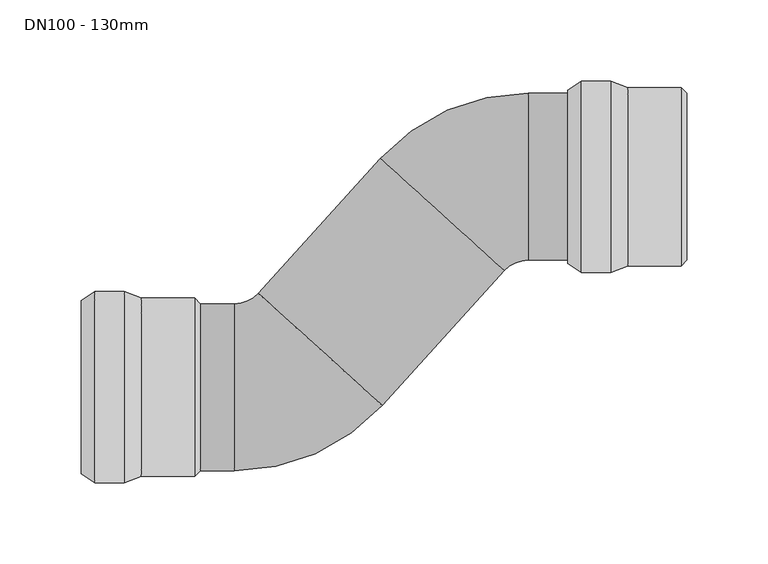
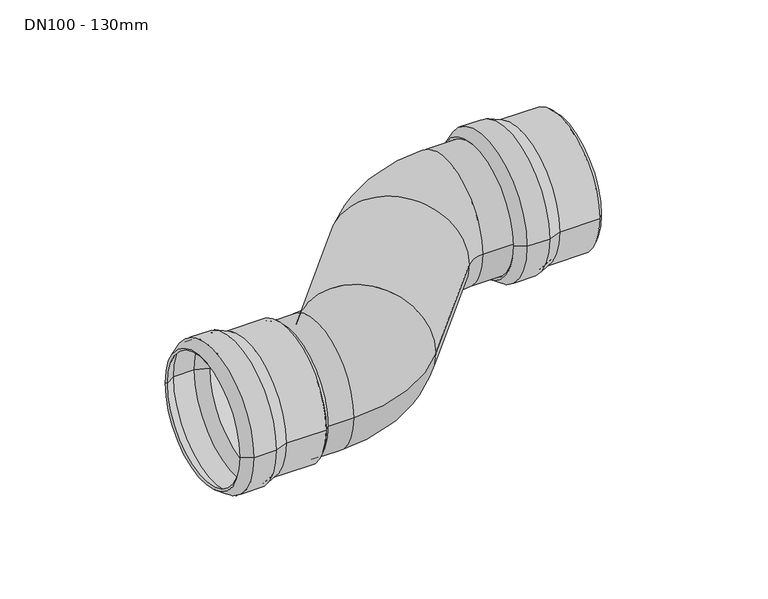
"""IFC4 building model written with IfcOpenShell, lengths in millimetres: valve geometry, PIA_ST_UN_GM-X s-bend_ACO : DN100 - 130mm."""

from ifc_helpers import new_model, si_unit, point, frame, origin, place, context, project, spatial, polyline, circle_curve, ellipse_curve, trimmed, source, transform, mapped, element, save
from ifc_brep_helpers import plane_surface, cylinder_surface, revolved_surface, advanced_brep


def dn100_130mm_dbbf00aa(model_context):
    return source(origin(), model_context, "Body", "AdvancedBrep", [
        advanced_brep(
        [(106.5, 189.0, 0.0), (106.5, 71.0, 0.0), (88.3, 71.0, 0.0), (88.3, 189.0, 0.0), (117.0, 185.0, 0.0), (117.0, 75.0, 0.0), (80.0, 76.5, 0.0), (80.0, 183.5, 0.0), (150.0, 185.0, 0.0), (150.0, 75.0, 0.0), (153.5, 181.5, 0.0), (153.5, 78.5, 0.0), (150.0, 181.5, 0.0), (150.0, 78.5, 0.0), (116.6319487, 183.0, 0.0), (116.6319487, 77.0, 0.0), (150.0, 77.0, 0.0), (150.0, 183.0, 0.0), (106.1319487, 187.0, 0.0), (106.1319487, 73.0, 0.0), (88.9025117, 187.0, 0.0), (88.9025117, 73.0, 0.0), (81.1047607, 181.8328156, 0.0), (81.1047607, 78.1671844, 0.0)],
        [
            (0, 1, circle_curve(frame((106.5, 130.0, 0.0), z_axis=(-1.0, 0.0, 0.0), x_axis=(0.0, -1.0, 0.0)), 59.0)),
            (1, 2),
            (2, 3, circle_curve(frame((88.3, 130.0, 0.0), z_axis=(1.0, 0.0, 0.0), x_axis=(0.0, -1.0, 0.0)), 59.0)),
            (3, 0),
            (1, 0, circle_curve(frame((106.5, 130.0, 0.0), z_axis=(-1.0, 0.0, 0.0), x_axis=(0.0, -1.0, 0.0)), 59.0)),
            (3, 2, circle_curve(frame((88.3, 130.0, 0.0), z_axis=(1.0, 0.0, 0.0), x_axis=(0.0, -1.0, 0.0)), 59.0)),
            (4, 5, circle_curve(frame((117.0, 130.0, 0.0), z_axis=(-1.0, 0.0, 0.0), x_axis=(0.0, -1.0, 0.0)), 55.0)),
            (5, 1),
            (0, 4),
            (5, 4, circle_curve(frame((117.0, 130.0, 0.0), z_axis=(-1.0, 0.0, 0.0), x_axis=(0.0, -1.0, 0.0)), 55.0)),
            (2, 6),
            (6, 7, circle_curve(frame((80.0, 130.0, 0.0), z_axis=(1.0, 0.0, 0.0), x_axis=(0.0, -1.0, 0.0)), 53.5)),
            (7, 3),
            (7, 6, circle_curve(frame((80.0, 130.0, 0.0), z_axis=(1.0, 0.0, 0.0), x_axis=(0.0, -1.0, 0.0)), 53.5)),
            (8, 9, circle_curve(frame((150.0, 130.0, 0.0), z_axis=(-1.0, 0.0, 0.0), x_axis=(0.0, -1.0, 0.0)), 55.0)),
            (9, 5),
            (4, 8),
            (9, 8, circle_curve(frame((150.0, 130.0, 0.0), z_axis=(-1.0, 0.0, 0.0), x_axis=(0.0, -1.0, 0.0)), 55.0)),
            (10, 11, circle_curve(frame((153.5, 130.0, 0.0), z_axis=(-1.0, 0.0, 0.0), x_axis=(0.0, -1.0, 0.0)), 51.5)),
            (11, 9),
            (8, 10),
            (11, 10, circle_curve(frame((153.5, 130.0, 0.0), z_axis=(-1.0, 0.0, 0.0), x_axis=(0.0, -1.0, 0.0)), 51.5)),
            (12, 13, circle_curve(frame((150.0, 130.0, 0.0), z_axis=(-1.0, 0.0, 0.0), x_axis=(0.0, -1.0, 0.0)), 51.5)),
            (13, 11),
            (10, 12),
            (13, 12, circle_curve(frame((150.0, 130.0, 0.0), z_axis=(-1.0, 0.0, 0.0), x_axis=(0.0, -1.0, 0.0)), 51.5)),
            (14, 15, circle_curve(frame((116.6319487, 130.0, 0.0), z_axis=(-1.0, 0.0, 0.0), x_axis=(0.0, -1.0, 0.0)), 53.0)),
            (15, 16),
            (16, 17, circle_curve(frame((150.0, 130.0, 0.0), z_axis=(1.0, 0.0, 0.0), x_axis=(0.0, -1.0, 0.0)), 53.0)),
            (17, 14),
            (15, 14, circle_curve(frame((116.6319487, 130.0, 0.0), z_axis=(-1.0, 0.0, 0.0), x_axis=(0.0, -1.0, 0.0)), 53.0)),
            (17, 16, circle_curve(frame((150.0, 130.0, 0.0), z_axis=(1.0, 0.0, 0.0), x_axis=(0.0, -1.0, 0.0)), 53.0)),
            (18, 19, circle_curve(frame((106.1319487, 130.0, 0.0), z_axis=(-1.0, 0.0, 0.0), x_axis=(0.0, -1.0, 0.0)), 57.0)),
            (19, 15),
            (14, 18),
            (19, 18, circle_curve(frame((106.1319487, 130.0, 0.0), z_axis=(-1.0, 0.0, 0.0), x_axis=(0.0, -1.0, 0.0)), 57.0)),
            (20, 21, circle_curve(frame((88.9025117, 130.0, 0.0), z_axis=(-1.0, 0.0, 0.0), x_axis=(0.0, -1.0, 0.0)), 57.0)),
            (21, 19),
            (18, 20),
            (21, 20, circle_curve(frame((88.9025117, 130.0, 0.0), z_axis=(-1.0, 0.0, 0.0), x_axis=(0.0, -1.0, 0.0)), 57.0)),
            (22, 23, circle_curve(frame((81.1047607, 130.0, 0.0), z_axis=(-1.0, 0.0, 0.0), x_axis=(0.0, -1.0, 0.0)), 51.8328156)),
            (23, 21),
            (20, 22),
            (23, 22, circle_curve(frame((81.1047607, 130.0, 0.0), z_axis=(-1.0, 0.0, 0.0), x_axis=(0.0, -1.0, 0.0)), 51.8328156)),
            (6, 23),
            (22, 7),
            (16, 13),
            (12, 17),
        ],
        [
            cylinder_surface(frame((83.3555883, 130.0, 0.0), z_axis=(1.0, 0.0, 0.0), x_axis=(0.0, -1.0, 0.0)), 59.0),
            revolved_surface(polyline([(106.5, 71.0, 0.0), (117.0, 75.0, 0.0)]), (83.3555883, 130.0, 0.0), (1.0, 0.0, 0.0)),
            revolved_surface(polyline([(80.0, 76.5, 0.0), (88.3, 71.0, 0.0)]), (83.3555883, 130.0, 0.0), (1.0, 0.0, 0.0)),
            cylinder_surface(frame((83.3555883, 130.0, 0.0), z_axis=(1.0, 0.0, 0.0), x_axis=(0.0, -1.0, 0.0)), 55.0),
            revolved_surface(polyline([(150.0, 75.0, 0.0), (153.5, 78.5, 0.0)]), (83.3555883, 130.0, 0.0), (1.0, 0.0, 0.0)),
            revolved_surface(polyline([(153.5, 78.5, 0.0), (150.0, 78.5, 0.0)]), (83.3555883, 130.0, 0.0), (1.0, 0.0, 0.0)),
            revolved_surface(polyline([(150.0, 77.0, 0.0), (116.6319487, 77.0, 0.0)]), (83.3555883, 130.0, 0.0), (1.0, 0.0, 0.0)),
            revolved_surface(polyline([(116.6319487, 77.0, 0.0), (106.1319487, 73.0, 0.0)]), (83.3555883, 130.0, 0.0), (1.0, 0.0, 0.0)),
            revolved_surface(polyline([(106.1319487, 73.0, 0.0), (88.9025117, 73.0, 0.0)]), (83.3555883, 130.0, 0.0), (1.0, 0.0, 0.0)),
            revolved_surface(polyline([(88.9025117, 73.0, 0.0), (81.1047607, 78.1671844, 0.0)]), (83.3555883, 130.0, 0.0), (1.0, 0.0, 0.0)),
            revolved_surface(polyline([(81.1047607, 78.1671844, 0.0), (80.0, 76.5, 0.0)]), (83.3555883, 130.0, 0.0), (1.0, 0.0, 0.0)),
            plane_surface(frame((150.0, 130.0, 0.0), z_axis=(-1.0, 0.0, 0.0), x_axis=(0.0, -1.0, 0.0))),
        ],
        [
            (0, [[1, 2, 3, 4]]),
            (0, [[5, -4, 6, -2]]),
            (1, [[7, 8, -1, 9]]),
            (1, [[10, -9, -5, -8]]),
            (2, [[-3, 11, 12, 13]]),
            (2, [[-6, -13, 14, -11]]),
            (3, [[15, 16, -7, 17]]),
            (3, [[18, -17, -10, -16]]),
            (4, [[19, 20, -15, 21]]),
            (4, [[22, -21, -18, -20]]),
            (5, [[23, 24, -19, 25]]),
            (5, [[26, -25, -22, -24]]),
            (6, [[27, 28, 29, 30]]),
            (6, [[31, -30, 32, -28]]),
            (7, [[33, 34, -27, 35]]),
            (7, [[36, -35, -31, -34]]),
            (8, [[37, 38, -33, 39]]),
            (8, [[40, -39, -36, -38]]),
            (9, [[41, 42, -37, 43]]),
            (9, [[44, -43, -40, -42]]),
            (10, [[-12, 45, -41, 46]]),
            (10, [[-14, -46, -44, -45]]),
            (11, [[-29, 47, -23, 48]]),
            (11, [[-32, -48, -26, -47]]),
        ],
    ),
        advanced_brep(
        [(-193.5, 59.0, 0.0), (-193.5, -59.0, 0.0), (-211.7, -59.0, 0.0), (-211.7, 59.0, 0.0), (-183.0, 55.0, 0.0), (-183.0, -55.0, 0.0), (-220.0, -53.5, 0.0), (-220.0, 53.5, 0.0), (-150.0, 55.0, 0.0), (-150.0, -55.0, 0.0), (-146.5, 51.5, 0.0), (-146.5, -51.5, 0.0), (-150.0, 51.5, 0.0), (-150.0, -51.5, 0.0), (-183.3680513, 53.0, 0.0), (-183.3680513, -53.0, 0.0), (-150.0, -53.0, 0.0), (-150.0, 53.0, 0.0), (-193.8680513, 57.0, 0.0), (-193.8680513, -57.0, 0.0), (-211.0974883, 57.0, 0.0), (-211.0974883, -57.0, 0.0), (-218.8952393, 51.8328156, 0.0), (-218.8952393, -51.8328156, 0.0)],
        [
            (0, 1, circle_curve(frame((-193.5, 0.0, 0.0), z_axis=(-1.0, 0.0, 0.0), x_axis=(0.0, -1.0, 0.0)), 59.0)),
            (1, 2),
            (2, 3, circle_curve(frame((-211.7, 0.0, 0.0), z_axis=(1.0, 0.0, 0.0), x_axis=(0.0, -1.0, 0.0)), 59.0)),
            (3, 0),
            (1, 0, circle_curve(frame((-193.5, 0.0, 0.0), z_axis=(-1.0, 0.0, 0.0), x_axis=(0.0, -1.0, 0.0)), 59.0)),
            (3, 2, circle_curve(frame((-211.7, 0.0, 0.0), z_axis=(1.0, 0.0, 0.0), x_axis=(0.0, -1.0, 0.0)), 59.0)),
            (4, 5, circle_curve(frame((-183.0, 0.0, 0.0), z_axis=(-1.0, 0.0, 0.0), x_axis=(0.0, -1.0, 0.0)), 55.0)),
            (5, 1),
            (0, 4),
            (5, 4, circle_curve(frame((-183.0, 0.0, 0.0), z_axis=(-1.0, 0.0, 0.0), x_axis=(0.0, -1.0, 0.0)), 55.0)),
            (2, 6),
            (6, 7, circle_curve(frame((-220.0, 0.0, 0.0), z_axis=(1.0, 0.0, 0.0), x_axis=(0.0, -1.0, 0.0)), 53.5)),
            (7, 3),
            (7, 6, circle_curve(frame((-220.0, 0.0, 0.0), z_axis=(1.0, 0.0, 0.0), x_axis=(0.0, -1.0, 0.0)), 53.5)),
            (8, 9, circle_curve(frame((-150.0, 0.0, 0.0), z_axis=(-1.0, 0.0, 0.0), x_axis=(0.0, -1.0, 0.0)), 55.0)),
            (9, 5),
            (4, 8),
            (9, 8, circle_curve(frame((-150.0, 0.0, 0.0), z_axis=(-1.0, 0.0, 0.0), x_axis=(0.0, -1.0, 0.0)), 55.0)),
            (10, 11, circle_curve(frame((-146.5, 0.0, 0.0), z_axis=(-1.0, 0.0, 0.0), x_axis=(0.0, -1.0, 0.0)), 51.5)),
            (11, 9),
            (8, 10),
            (11, 10, circle_curve(frame((-146.5, 0.0, 0.0), z_axis=(-1.0, 0.0, 0.0), x_axis=(0.0, -1.0, 0.0)), 51.5)),
            (12, 13, circle_curve(frame((-150.0, 0.0, 0.0), z_axis=(-1.0, 0.0, 0.0), x_axis=(0.0, -1.0, 0.0)), 51.5)),
            (13, 11),
            (10, 12),
            (13, 12, circle_curve(frame((-150.0, 0.0, 0.0), z_axis=(-1.0, 0.0, 0.0), x_axis=(0.0, -1.0, 0.0)), 51.5)),
            (14, 15, circle_curve(frame((-183.3680513, 0.0, 0.0), z_axis=(-1.0, 0.0, 0.0), x_axis=(0.0, -1.0, 0.0)), 53.0)),
            (15, 16),
            (16, 17, circle_curve(frame((-150.0, 0.0, 0.0), z_axis=(1.0, 0.0, 0.0), x_axis=(0.0, -1.0, 0.0)), 53.0)),
            (17, 14),
            (15, 14, circle_curve(frame((-183.3680513, 0.0, 0.0), z_axis=(-1.0, 0.0, 0.0), x_axis=(0.0, -1.0, 0.0)), 53.0)),
            (17, 16, circle_curve(frame((-150.0, 0.0, 0.0), z_axis=(1.0, 0.0, 0.0), x_axis=(0.0, -1.0, 0.0)), 53.0)),
            (18, 19, circle_curve(frame((-193.8680513, 0.0, 0.0), z_axis=(-1.0, 0.0, 0.0), x_axis=(0.0, -1.0, 0.0)), 57.0)),
            (19, 15),
            (14, 18),
            (19, 18, circle_curve(frame((-193.8680513, 0.0, 0.0), z_axis=(-1.0, 0.0, 0.0), x_axis=(0.0, -1.0, 0.0)), 57.0)),
            (20, 21, circle_curve(frame((-211.0974883, 0.0, 0.0), z_axis=(-1.0, 0.0, 0.0), x_axis=(0.0, -1.0, 0.0)), 57.0)),
            (21, 19),
            (18, 20),
            (21, 20, circle_curve(frame((-211.0974883, 0.0, 0.0), z_axis=(-1.0, 0.0, 0.0), x_axis=(0.0, -1.0, 0.0)), 57.0)),
            (22, 23, circle_curve(frame((-218.8952393, 0.0, 0.0), z_axis=(-1.0, 0.0, 0.0), x_axis=(0.0, -1.0, 0.0)), 51.8328156)),
            (23, 21),
            (20, 22),
            (23, 22, circle_curve(frame((-218.8952393, 0.0, 0.0), z_axis=(-1.0, 0.0, 0.0), x_axis=(0.0, -1.0, 0.0)), 51.8328156)),
            (6, 23),
            (22, 7),
            (16, 13),
            (12, 17),
        ],
        [
            cylinder_surface(frame((-216.6444117, 0.0, 0.0), z_axis=(1.0, 0.0, 0.0), x_axis=(0.0, -1.0, 0.0)), 59.0),
            revolved_surface(polyline([(-193.5, -59.0, 0.0), (-183.0, -55.0, 0.0)]), (-216.6444117, 0.0, 0.0), (1.0, 0.0, 0.0)),
            revolved_surface(polyline([(-220.0, -53.5, 0.0), (-211.7, -59.0, 0.0)]), (-216.6444117, 0.0, 0.0), (1.0, 0.0, 0.0)),
            cylinder_surface(frame((-216.6444117, 0.0, 0.0), z_axis=(1.0, 0.0, 0.0), x_axis=(0.0, -1.0, 0.0)), 55.0),
            revolved_surface(polyline([(-150.0, -55.0, 0.0), (-146.5, -51.5, 0.0)]), (-216.6444117, 0.0, 0.0), (1.0, 0.0, 0.0)),
            revolved_surface(polyline([(-146.5, -51.5, 0.0), (-150.0, -51.5, 0.0)]), (-216.6444117, 0.0, 0.0), (1.0, 0.0, 0.0)),
            revolved_surface(polyline([(-150.0, -53.0, 0.0), (-183.3680513, -53.0, 0.0)]), (-216.6444117, 0.0, 0.0), (1.0, 0.0, 0.0)),
            revolved_surface(polyline([(-183.3680513, -53.0, 0.0), (-193.8680513, -57.0, 0.0)]), (-216.6444117, 0.0, 0.0), (1.0, 0.0, 0.0)),
            revolved_surface(polyline([(-193.8680513, -57.0, 0.0), (-211.0974883, -57.0, 0.0)]), (-216.6444117, 0.0, 0.0), (1.0, 0.0, 0.0)),
            revolved_surface(polyline([(-211.0974883, -57.0, 0.0), (-218.8952393, -51.8328156, 0.0)]), (-216.6444117, 0.0, 0.0), (1.0, 0.0, 0.0)),
            revolved_surface(polyline([(-218.8952393, -51.8328156, 0.0), (-220.0, -53.5, 0.0)]), (-216.6444117, 0.0, 0.0), (1.0, 0.0, 0.0)),
            plane_surface(frame((-150.0, 0.0, 0.0), z_axis=(-1.0, 0.0, 0.0), x_axis=(0.0, -1.0, 0.0))),
        ],
        [
            (0, [[1, 2, 3, 4]]),
            (0, [[5, -4, 6, -2]]),
            (1, [[7, 8, -1, 9]]),
            (1, [[10, -9, -5, -8]]),
            (2, [[-3, 11, 12, 13]]),
            (2, [[-6, -13, 14, -11]]),
            (3, [[15, 16, -7, 17]]),
            (3, [[18, -17, -10, -16]]),
            (4, [[19, 20, -15, 21]]),
            (4, [[22, -21, -18, -20]]),
            (5, [[23, 24, -19, 25]]),
            (5, [[26, -25, -22, -24]]),
            (6, [[27, 28, 29, 30]]),
            (6, [[31, -30, 32, -28]]),
            (7, [[33, 34, -27, 35]]),
            (7, [[36, -35, -31, -34]]),
            (8, [[37, 38, -33, 39]]),
            (8, [[40, -39, -36, -38]]),
            (9, [[41, 42, -37, 43]]),
            (9, [[44, -43, -40, -42]]),
            (10, [[-12, 45, -41, 46]]),
            (10, [[-14, -46, -44, -45]]),
            (11, [[-29, 47, -23, 48]]),
            (11, [[-32, -48, -26, -47]]),
        ],
    ),
        advanced_brep(
        [(-150.0, -51.5, 0.0), (-150.0, 51.5, 0.0), (-125.5434685, -51.5, 0.0), (-125.5434685, 51.5, 0.0), (-110.7570866, 58.0524226, 0.0), (-34.4542132, -11.1347981, 0.0), (40.8802847, 71.9475774, 0.0), (-35.4225887, 141.1347981, 0.0), (55.6666667, 181.5, 0.0), (55.6666667, 78.5, 0.0), (150.0, 78.5, 0.0), (150.0, 181.5, 0.0)],
        [
            (0, 1, circle_curve(frame((-150.0, 0.0, 0.0), z_axis=(-1.0, 0.0, 0.0), x_axis=(0.0, 1.0, 0.0)), 51.5)),
            (1, 0, circle_curve(frame((-150.0, 0.0, 0.0), z_axis=(-1.0, 0.0, 0.0), x_axis=(0.0, 1.0, 0.0)), 51.5)),
            (0, 2),
            (2, 3, circle_curve(frame((-125.5434685, 0.0, 0.0), z_axis=(-1.0, 0.0, 0.0), x_axis=(0.0, 1.0, 0.0)), 51.5)),
            (3, 1),
            (3, 2, circle_curve(frame((-125.5434685, 0.0, 0.0), z_axis=(-1.0, 0.0, 0.0), x_axis=(0.0, 1.0, 0.0)), 51.5)),
            (4, 3, circle_curve(frame((-125.5434685, 71.459895, 0.0), z_axis=(0.0, 0.0, -1.0), x_axis=(0.0, -1.0, 0.0)), 19.959895)),
            (2, 5, circle_curve(frame((-125.5434685, 71.459895, 0.0), z_axis=(0.0, 0.0, 1.0), x_axis=(0.0, -1.0, 0.0)), 122.959895)),
            (5, 4, circle_curve(frame((-72.6056499, 23.4588122, 0.0), z_axis=(-0.6717205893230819, -0.740804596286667, 0.0), x_axis=(-0.740804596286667, 0.6717205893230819, 0.0)), 51.5)),
            (4, 5, circle_curve(frame((-72.6056499, 23.4588122, 0.0), z_axis=(-0.6717205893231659, -0.7408045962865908, 0.0), x_axis=(-0.7408045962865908, 0.6717205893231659, 0.0)), 51.5)),
            (5, 6),
            (6, 7, circle_curve(frame((2.728848, 106.5411878, 0.0), z_axis=(-0.6717205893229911, -0.7408045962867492, 0.0), x_axis=(-0.7408045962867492, 0.6717205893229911, 0.0)), 51.5)),
            (7, 4),
            (7, 6, circle_curve(frame((2.728848, 106.5411878, 0.0), z_axis=(-0.6717205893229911, -0.7408045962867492, 0.0), x_axis=(-0.7408045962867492, 0.6717205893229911, 0.0)), 51.5)),
            (8, 7, circle_curve(frame((55.6666667, 58.540105, 0.0), z_axis=(0.0, 0.0, 1.0), x_axis=(-0.740804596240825, 0.6717205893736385, 0.0)), 122.959895)),
            (6, 9, circle_curve(frame((55.6666667, 58.540105, 0.0), z_axis=(0.0, 0.0, -1.0), x_axis=(-0.740804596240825, 0.6717205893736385, 0.0)), 19.959895)),
            (9, 8, circle_curve(frame((55.6666667, 130.0, 0.0), z_axis=(-1.0, -1.1545636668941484e-10, 0.0), x_axis=(-1.1545636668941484e-10, 1.0, 0.0)), 51.5)),
            (8, 9, circle_curve(frame((55.6666667, 130.0, 0.0), z_axis=(-1.0, 1.874400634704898e-11, 0.0), x_axis=(1.874400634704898e-11, 1.0, 0.0)), 51.5)),
            (10, 11, circle_curve(frame((150.0, 130.0, 0.0), z_axis=(1.0, 0.0, 0.0), x_axis=(0.0, 1.0, 0.0)), 51.5)),
            (11, 10, circle_curve(frame((150.0, 130.0, 0.0), z_axis=(1.0, 0.0, 0.0), x_axis=(0.0, 1.0, 0.0)), 51.5)),
            (9, 10),
            (11, 8),
        ],
        [
            plane_surface(frame((-150.0, 0.0, 0.0), z_axis=(-1.0, 0.0, 0.0), x_axis=(0.0, 0.0, 1.0))),
            cylinder_surface(frame((-150.0, 0.0, 0.0), z_axis=(-1.0, 0.0, 0.0), x_axis=(0.0, 1.0, 0.0)), 51.5),
            revolved_surface(trimmed(ellipse_curve(frame((-125.5434685, 0.0, 0.0), z_axis=(-1.0, 0.0, 0.0), x_axis=(0.0, 1.0, 0.0)), 51.5, 51.5), [point((-125.5434685, -51.5, 0.0))], [point((-125.5434685, 51.5, 0.0))], True, "CARTESIAN"), (-125.5434685, 71.459895, 0.0), (0.0, 0.0, 1.0)),
            revolved_surface(trimmed(ellipse_curve(frame((-125.5434685, 0.0, 0.0), z_axis=(-1.0, 0.0, 0.0), x_axis=(0.0, 1.0, 0.0)), 51.5, 51.5), [point((-125.5434685, 51.5, 0.0))], [point((-125.5434685, -51.5, 0.0))], True, "CARTESIAN"), (-125.5434685, 71.459895, 0.0), (0.0, 0.0, 1.0)),
            cylinder_surface(frame((-72.6056499, 23.4588122, 0.0), z_axis=(-0.6717205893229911, -0.7408045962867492, 0.0), x_axis=(-0.7408045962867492, 0.6717205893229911, 0.0)), 51.5),
            revolved_surface(trimmed(ellipse_curve(frame((2.728848, 106.5411878, 0.0), z_axis=(-0.6717205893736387, -0.7408045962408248, 0.0), x_axis=(-0.7408045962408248, 0.6717205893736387, 0.0)), 51.5, 51.5), [point((40.8802847, 71.9475774, 0.0))], [point((-35.4225887, 141.1347981, 0.0))], True, "CARTESIAN"), (55.6666667, 58.540105, 0.0), (0.0, 0.0, -1.0)),
            revolved_surface(trimmed(ellipse_curve(frame((2.728848, 106.5411878, 0.0), z_axis=(-0.6717205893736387, -0.7408045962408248, 0.0), x_axis=(-0.7408045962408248, 0.6717205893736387, 0.0)), 51.5, 51.5), [point((-35.4225887, 141.1347981, 0.0))], [point((40.8802847, 71.9475774, 0.0))], True, "CARTESIAN"), (55.6666667, 58.540105, 0.0), (0.0, 0.0, -1.0)),
            plane_surface(frame((150.0, 130.0, 0.0), z_axis=(1.0, 0.0, 0.0), x_axis=(0.0, 0.0, 1.0))),
            cylinder_surface(frame((55.6666667, 130.0, 0.0), z_axis=(-1.0, 0.0, 0.0), x_axis=(0.0, 1.0, 0.0)), 51.5),
        ],
        [
            (0, [[1, 2]]),
            (1, [[-1, 3, 4, 5]]),
            (1, [[-2, -5, 6, -3]]),
            (2, [[7, -4, 8, 9]]),
            (3, [[-8, -6, -7, 10]]),
            (4, [[-9, 11, 12, 13]]),
            (4, [[-10, -13, 14, -11]]),
            (5, [[15, -12, 16, 17]]),
            (6, [[-16, -14, -15, 18]]),
            (7, [[19, 20]]),
            (8, [[-17, 21, -20, 22]]),
            (8, [[-18, -22, -19, -21]]),
        ],
    ),
    ])


if __name__ == "__main__":
    model = new_model("IFC4")
    model_context = context("Model", 3, world=origin())
    ifc_project = project(units=[si_unit("LENGTHUNIT", "METRE", prefix="MILLI")], contexts=[model_context])
    site = spatial("IfcSite", under=ifc_project)
    building = spatial("IfcBuilding", under=site)
    placement = place(None, origin())
    dn100_130mm_shape = dn100_130mm_dbbf00aa(model_context)
    element("IfcValve", 1, ObjectType="PIA_ST_UN_GM-X s-bend_ACO : DN100 - 130mm", at=placement, inside=building, context=model_context, shape_type="MappedRepresentation", body=[
        mapped(dn100_130mm_shape, transform((0.0, 0.0, 0.0), x_axis=(1.0, 0.0, 0.0), y_axis=(0.0, 1.0, 0.0), z_axis=(0.0, 0.0, 1.0))),
    ])
    save(model, "model.ifc")
